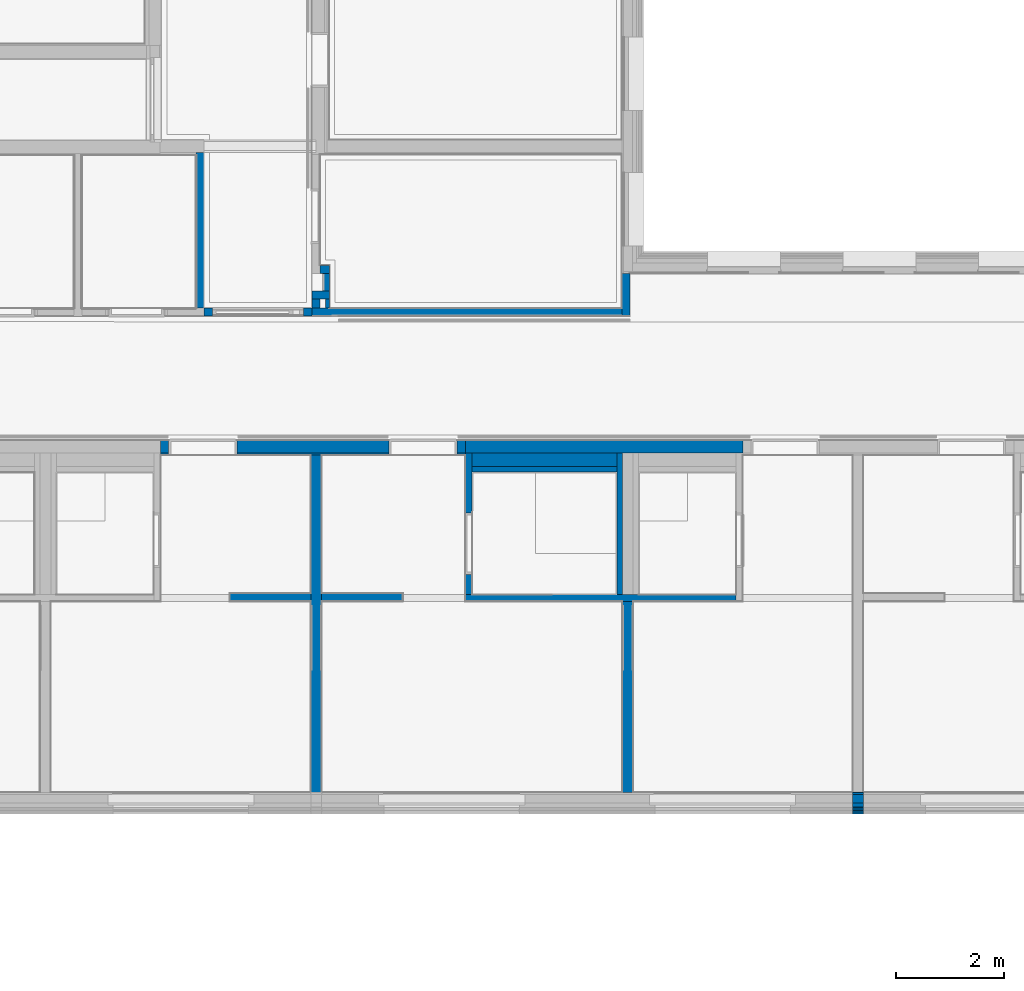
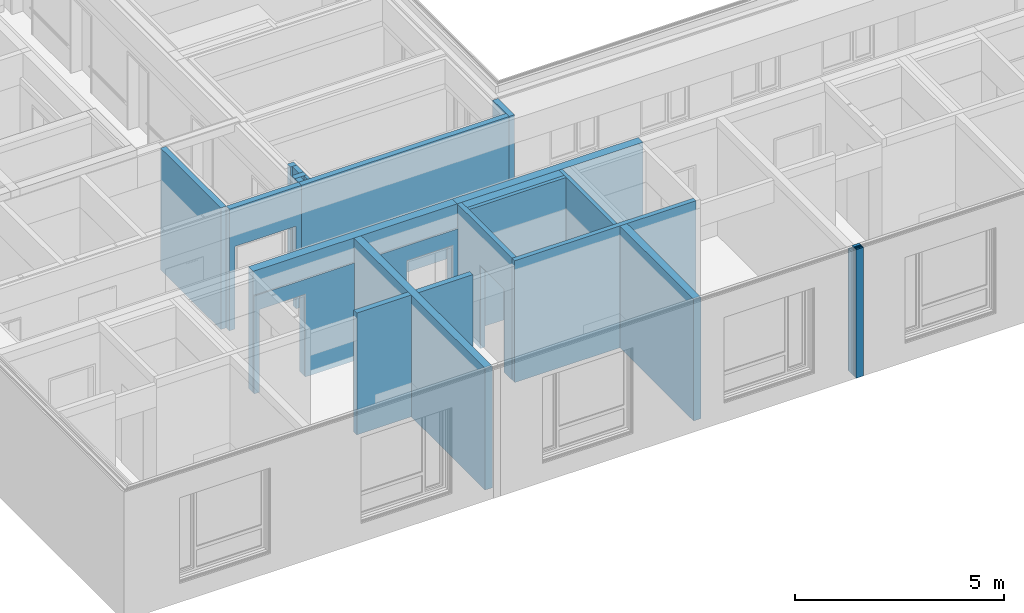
# One storey, part 11 of 222: 28 walls, 6 openings.
"""IFC4 building model written with IfcOpenShell, lengths in metres."""

from ifc_helpers import new_model, entity, si_unit, converted_unit, derived_unit, frame, frame_2d, origin, origin_with_axes, place, context, subcontext, project, spatial, polyline, rectangle, outline, extrude, material, element, save


model = new_model("IFC4")

# Units and contexts
model_context = context("Model", 3, precision=1e-05, world=origin())
body_context = subcontext(model_context, "Body", "Model", "MODEL_VIEW")
ifc_project = project(units=[si_unit("LENGTHUNIT", "METRE"), si_unit("AREAUNIT", "SQUARE_METRE"), si_unit("VOLUMEUNIT", "CUBIC_METRE"), si_unit("MASSUNIT", "GRAM", prefix="KILO"), converted_unit("PLANEANGLEUNIT", "DEGREE", entity("IfcPlaneAngleMeasure", 0.0174532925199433), si_unit("PLANEANGLEUNIT", "RADIAN"), dimensions=[0, 0, 0, 0, 0, 0, 0]), derived_unit("THERMALTRANSMITTANCEUNIT", [(si_unit("POWERUNIT", "WATT"), 1), (si_unit("THERMODYNAMICTEMPERATUREUNIT", "KELVIN"), -1), (si_unit("LENGTHUNIT", "METRE"), -2)]), derived_unit("VOLUMETRICFLOWRATEUNIT", [(si_unit("LENGTHUNIT", "METRE"), 3), (converted_unit("TIMEUNIT", "hour", entity("IfcTimeMeasure", 3600.0), si_unit("TIMEUNIT", "SECOND"), dimensions=[0, 0, 1, 0, 0, 0, 0]), -1), (si_unit("LENGTHUNIT", "METRE"), -1)])], contexts=[model_context])

# Site, building, storey
site_placement = place(None, origin())
site = spatial("IfcSite", under=ifc_project, at=site_placement, Name="Psychiatrie Neubau Wunstorf", CompositionType="ELEMENT")
building_placement = place(site_placement, origin())
building = spatial("IfcBuilding", under=site, at=building_placement, Name="Neubau H2 Stationsgebäude", CompositionType="ELEMENT")
storey_placement = place(building_placement, frame((0.0, 0.0, 3.6)))
storey = spatial("IfcBuildingStorey", under=building, at=storey_placement, Name="H2 Ebene +1", CompositionType="ELEMENT", Elevation=3.6)

# Walls
ifc_material_1 = material(Name="WA-LB")
wall_1_placement = place(storey_placement, frame((20.1, -2.16399999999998, 0.0), z_axis=(0.0, 0.0, 1.0), x_axis=(-1.0, 0.0, 0.0)))
element("IfcWall", 1, at=wall_1_placement, inside=storey, material=ifc_material_1, Name="2x Gipsfaserplatte", context=body_context, shape_type="SweptSolid", body=[
    extrude(rectangle(XDim=0.2, YDim=0.036, at=frame_2d((0.1, 0.018), x_axis=(1.0, 0.0))), origin_with_axes(), (0.0, 0.0, 1.0), 3.55),
])
ifc_material_2 = material(Name="WA-HD")
wall_2_placement = place(storey_placement, frame((20.1, -2.19999999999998, 0.0), z_axis=(0.0, 0.0, 1.0), x_axis=(-1.0, 0.0, 0.0)))
element("IfcWall", 2, at=wall_2_placement, inside=storey, material=ifc_material_2, Name="Holzständer + Zwischendämmung", context=body_context, shape_type="SweptSolid", body=[
    extrude(rectangle(XDim=0.2, YDim=0.16, at=frame_2d((0.1, 0.08), x_axis=(1.0, 0.0))), origin_with_axes(), (0.0, 0.0, 1.0), 3.55),
])
ifc_material_3 = material(Name="WA-DL")
wall_3_placement = place(storey_placement, frame((20.1, -2.35999999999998, 0.0), z_axis=(0.0, 0.0, 1.0), x_axis=(-1.0, 0.0, 0.0)))
element("IfcWall", 3, at=wall_3_placement, inside=storey, material=ifc_material_3, Name="Staffel + Zwischendämmung", context=body_context, shape_type="SweptSolid", body=[
    extrude(rectangle(XDim=0.2, YDim=0.08, at=frame_2d((0.1, 0.04), x_axis=(1.0, 0.0))), origin_with_axes(), (0.0, 0.0, 1.0), 3.75),
])
ifc_material_4 = material(Name="WA-LB")
wall_4_placement = place(storey_placement, frame((20.1, -2.43999999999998, 0.0), z_axis=(0.0, 0.0, 1.0), x_axis=(-1.0, 0.0, 0.0)))
element("IfcWall", 4, at=wall_4_placement, inside=storey, material=ifc_material_4, context=body_context, shape_type="SweptSolid", body=[
    extrude(rectangle(XDim=0.2, YDim=0.036, at=frame_2d((0.1, 0.018), x_axis=(1.0, 0.0))), origin_with_axes(), (0.0, 0.0, 1.0), 3.75),
])
ifc_material_5 = material(Name="WA-KL")
wall_5_placement = place(storey_placement, frame((20.1, -2.47599999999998, 0.0), z_axis=(0.0, 0.0, 1.0), x_axis=(-1.0, 0.0, 0.0)))
element("IfcWall", 5, at=wall_5_placement, inside=storey, material=ifc_material_5, Name="Konterlattung", context=body_context, shape_type="SweptSolid", body=[
    extrude(rectangle(XDim=0.2, YDim=0.024, at=frame_2d((0.1, 0.012), x_axis=(1.0, 0.0))), origin_with_axes(), (0.0, 0.0, 1.0), 3.75),
])
ifc_material_6 = material(Name="WA-TL")
wall_6_placement = place(storey_placement, frame((20.1, -2.49999999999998, 0.0), z_axis=(0.0, 0.0, 1.0), x_axis=(-1.0, 0.0, 0.0)))
element("IfcWall", 6, at=wall_6_placement, inside=storey, material=ifc_material_6, Name="Traglattung", context=body_context, shape_type="SweptSolid", body=[
    extrude(rectangle(XDim=0.2, YDim=0.024, at=frame_2d((0.1, 0.012), x_axis=(1.0, 0.0))), origin_with_axes(), (0.0, 0.0, 1.0), 3.75),
])
ifc_material_7 = material(Name="WA-HS")
wall_7_placement = place(storey_placement, frame((20.1, -2.52399999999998, 0.0), z_axis=(0.0, 0.0, 1.0), x_axis=(-1.0, 0.0, 0.0)))
element("IfcWall", 7, at=wall_7_placement, inside=storey, material=ifc_material_7, Name="Holzschindel", context=body_context, shape_type="SweptSolid", body=[
    extrude(rectangle(XDim=0.2, YDim=0.042, at=frame_2d((0.1, 0.021), x_axis=(1.0, 0.0))), origin_with_axes(), (0.0, 0.0, 1.0), 3.75),
])
ifc_material_8 = material(Name="WI-LB")
wall_8_placement = place(storey_placement, frame((7.775, 9.65000306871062, 0.0), z_axis=(0.0, 0.0, 1.0), x_axis=(0.0, -1.0, 0.0)))
element("IfcWall", 8, at=wall_8_placement, inside=storey, material=ifc_material_8, context=body_context, shape_type="SweptSolid", body=[
    extrude(rectangle(XDim=2.87500317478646, YDim=0.15, at=frame_2d((1.43750158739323, 0.075), x_axis=(1.0, 0.0))), origin_with_axes(), (0.0, 0.0, 1.0), 3.55),
])

# Wall, opening
ifc_material_9 = material(Name="WI-LB")
wall_9_placement = place(storey_placement, frame((12.875, 1.48374963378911, 0.0), z_axis=(0.0, 0.0, 1.0), x_axis=(0.0, 1.0, 0.0)))
wall_9 = element("IfcWall", 9, at=wall_9_placement, inside=storey, material=ifc_material_9, context=body_context, shape_type="SweptSolid", body=[
    extrude(rectangle(XDim=2.61499999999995, YDim=0.125, at=frame_2d((1.30749999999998, 0.0625), x_axis=(1.0, 0.0))), origin_with_axes(), (0.0, 0.0, 1.0), 3.55),
])
opening_1_placement = place(wall_9_placement, frame((0.374999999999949, 0.0, 0.0), z_axis=(0.0, 1.0, 0.0), x_axis=(0.0, 0.0, 1.0)))
element("IfcOpeningElement", 10, at=opening_1_placement, cuts=wall_9, Name="Türöffnung", ObjectType="Opening", context=body_context, shape_type="SweptSolid", body=[
    extrude(outline(polyline([(2.41, 1.135), (2.41, 0.0), (0.0, 0.0), (0.0, 1.135), (2.41, 1.135)])), origin_with_axes(), (0.0, 0.0, 1.0), 0.125),
])

# Walls
ifc_material_10 = material(Name="WI-LB")
wall_10_placement = place(storey_placement, frame((17.75, 1.48374963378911, 0.0), z_axis=(0.0, 0.0, 1.0), x_axis=(-1.0, 1.36424205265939e-16, 0.0)))
element("IfcWall", 11, at=wall_10_placement, inside=storey, material=ifc_material_10, context=body_context, shape_type="SweptSolid", body=[
    extrude(rectangle(XDim=5.0, YDim=0.125, at=frame_2d((2.5, 0.0625), x_axis=(1.0, 0.0))), origin_with_axes(), (0.0, 0.0, 1.0), 3.55),
])
ifc_material_11 = material(Name="WI-LB")
wall_11_placement = place(storey_placement, frame((15.65, 1.35874963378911, 0.0), z_axis=(0.0, 0.0, 1.0), x_axis=(0.0, -1.0, 0.0)))
element("IfcWall", 12, at=wall_11_placement, inside=storey, material=ifc_material_11, context=body_context, shape_type="SweptSolid", body=[
    extrude(rectangle(XDim=3.52274963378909, YDim=0.2, at=frame_2d((1.76137481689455, 0.1), x_axis=(1.0, 0.0))), origin_with_axes(), (0.0, 0.0, 1.0), 3.55),
])
ifc_material_12 = material(Name="WI-LB")
wall_12_placement = place(storey_placement, frame((9.9, 4.09874963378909, 0.0), z_axis=(0.0, 0.0, 1.0), x_axis=(-2.90445812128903e-16, -1.0, 0.0)))
element("IfcWall", 13, at=wall_12_placement, inside=storey, material=ifc_material_12, context=body_context, shape_type="SweptSolid", body=[
    extrude(rectangle(XDim=6.26274963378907, YDim=0.2, at=frame_2d((3.13137481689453, 0.1), x_axis=(1.0, 0.0))), origin_with_axes(), (0.0, 0.0, 1.0), 3.55),
])
ifc_material_13 = material(Name="WI-LB")
wall_13_placement = place(storey_placement, frame((15.639, 6.77499989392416, 0.0), z_axis=(0.0, 0.0, 1.0), x_axis=(-1.0, 3.17921770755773e-16, 0.0)))
element("IfcWall", 14, at=wall_13_placement, inside=storey, material=ifc_material_13, context=body_context, shape_type="SweptSolid", body=[
    extrude(rectangle(XDim=5.72149997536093, YDim=0.15, at=frame_2d((2.86074998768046, 0.075), x_axis=(1.0, 0.0))), origin_with_axes(), (0.0, 0.0, 1.0), 3.55),
])
ifc_material_14 = material(Name="WI-LB")
wall_14_placement = place(storey_placement, frame((9.9, 1.50874963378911, 0.0), z_axis=(0.0, 0.0, 1.0), x_axis=(-1.0, 0.0, 0.0)))
element("IfcWall", 15, at=wall_14_placement, inside=storey, material=ifc_material_14, context=body_context, shape_type="SweptSolid", body=[
    extrude(rectangle(XDim=1.50000000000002, YDim=0.15, at=frame_2d((0.750000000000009, 0.075), x_axis=(1.0, 0.0))), origin_with_axes(), (0.0, 0.0, 1.0), 3.55),
])
ifc_material_15 = material(Name="WI-LB")
wall_15_placement = place(storey_placement, frame((11.6, 1.50874963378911, 0.0), z_axis=(0.0, 0.0, 1.0), x_axis=(-1.0, -1.51582450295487e-16, 0.0)))
element("IfcWall", 16, at=wall_15_placement, inside=storey, material=ifc_material_15, context=body_context, shape_type="SweptSolid", body=[
    extrude(rectangle(XDim=1.50000000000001, YDim=0.15, at=frame_2d((0.750000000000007, 0.075), x_axis=(1.0, 0.0))), origin_with_axes(), (0.0, 0.0, 1.0), 3.55),
])
ifc_material_16 = material(Name="WI-LB")
wall_16_placement = place(storey_placement, frame((10.2425000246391, 7.56499989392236, 0.0), z_axis=(0.0, 0.0, 1.0), x_axis=(-1.0, 0.0, 0.0)))
element("IfcWall", 17, at=wall_16_placement, inside=storey, material=ifc_material_16, context=body_context, shape_type="SweptSolid", body=[
    extrude(rectangle(XDim=0.175, YDim=0.15, at=frame_2d((0.0875, 0.075), x_axis=(1.0, 0.0))), origin_with_axes(), (0.0, 0.0, 1.0), 3.55),
])
ifc_material_17 = material(Name="WI-LB")
wall_17_placement = place(storey_placement, frame((9.91750002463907, 6.93999989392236, 0.0)))
element("IfcWall", 18, at=wall_17_placement, inside=storey, material=ifc_material_17, context=body_context, shape_type="SweptSolid", body=[
    extrude(rectangle(XDim=0.325, YDim=0.15, at=frame_2d((0.1625, 0.075), x_axis=(1.0, 0.0))), origin_with_axes(), (0.0, 0.0, 1.0), 3.55),
])
ifc_material_18 = material(Name="WI-LB")
wall_18_placement = place(storey_placement, frame((10.0675000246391, 6.77499989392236, 0.0), z_axis=(0.0, 0.0, 1.0), x_axis=(0.0, 1.0, 0.0)))
element("IfcWall", 19, at=wall_18_placement, inside=storey, material=ifc_material_18, context=body_context, shape_type="SweptSolid", body=[
    extrude(rectangle(XDim=0.165, YDim=0.15, at=frame_2d((0.0825, 0.075), x_axis=(1.0, 0.0))), origin_with_axes(), (0.0, 0.0, 1.0), 3.55),
])
ifc_material_19 = material(Name="WI-IW")
wall_19_placement = place(storey_placement, frame((10.2425000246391, 6.77499990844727, 0.0), z_axis=(0.0, 0.0, 1.0), x_axis=(0.0, 1.0, 0.0)))
element("IfcWall", 20, at=wall_19_placement, inside=storey, material=ifc_material_19, context=body_context, shape_type="SweptSolid", body=[
    extrude(rectangle(XDim=0.164999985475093, YDim=0.075, at=frame_2d((0.0824999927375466, 0.0375), x_axis=(1.0, 0.0))), origin_with_axes(), (0.0, 0.0, 1.0), 3.55),
])

# Wall, openings
ifc_material_20 = material(Name="WI-HW 60")
wall_20_placement = place(storey_placement, frame((12.75, 4.33074963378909, 0.0), z_axis=(0.0, 0.0, 1.0), x_axis=(-1.0, 1.13181562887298e-15, 0.0)))
wall_20 = element("IfcWall", 21, at=wall_20_placement, inside=storey, material=ifc_material_20, context=body_context, shape_type="SweptSolid", body=[
    extrude(rectangle(XDim=5.625, YDim=0.232, at=frame_2d((2.8125, 0.116), x_axis=(1.0, 0.0))), origin_with_axes(), (0.0, 0.0, 1.0), 3.55),
])
opening_2_placement = place(wall_20_placement, frame((0.15, 0.0, 0.0), z_axis=(-1.1025663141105e-15, 1.0, 0.0), x_axis=(0.0, 0.0, 1.0)))
element("IfcOpeningElement", 22, at=opening_2_placement, cuts=wall_20, Name="Türöffnung", ObjectType="Opening", context=body_context, shape_type="SweptSolid", body=[
    extrude(outline(polyline([(2.41, 1.26), (2.41, 0.0), (0.0, 0.0), (0.0, 1.26), (2.41, 1.26)])), origin_with_axes(), (0.0, 0.0, 1.0), 0.232),
])
opening_3_placement = place(wall_20_placement, frame((4.215, 0.0, 0.0), z_axis=(0.0, 1.0, 0.0), x_axis=(0.0, 0.0, 1.0)))
element("IfcOpeningElement", 23, at=opening_3_placement, cuts=wall_20, Name="Türöffnung", ObjectType="Opening", context=body_context, shape_type="SweptSolid", body=[
    extrude(outline(polyline([(2.41, 1.26), (2.41, 0.0), (0.0, 0.0), (0.0, 1.26), (2.41, 1.26)])), origin_with_axes(), (0.0, 0.0, 1.0), 0.232),
])

ifc_material_21 = material(Name="WI-LB")
wall_21_placement = place(storey_placement, frame((12.75, 4.09874963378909, 0.0), z_axis=(0.0, 0.0, 1.0), x_axis=(-1.0, 1.13181562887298e-15, 0.0)))
wall_21 = element("IfcWall", 24, at=wall_21_placement, inside=storey, material=ifc_material_21, context=body_context, shape_type="SweptSolid", body=[
    extrude(rectangle(XDim=5.625, YDim=0.0399999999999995, at=frame_2d((2.8125, 0.0199999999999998), x_axis=(1.0, 0.0))), origin_with_axes(), (0.0, 0.0, 1.0), 2.85),
])
opening_4_placement = place(wall_21_placement, frame((0.15, 0.0, 0.0), z_axis=(-1.42108547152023e-15, 1.0, 0.0), x_axis=(0.0, 0.0, 1.0)))
element("IfcOpeningElement", 25, at=opening_4_placement, cuts=wall_21, Name="Türöffnung", ObjectType="Opening", context=body_context, shape_type="SweptSolid", body=[
    extrude(outline(polyline([(2.41, 1.26), (2.41, 0.0), (0.0, 0.0), (0.0, 1.26), (2.41, 1.26)])), origin_with_axes(), (0.0, 0.0, 1.0), 0.0399999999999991),
])
opening_5_placement = place(wall_21_placement, frame((4.215, 0.0, 0.0), z_axis=(0.0, 1.0, 0.0), x_axis=(0.0, 0.0, 1.0)))
element("IfcOpeningElement", 26, at=opening_5_placement, cuts=wall_21, Name="Türöffnung", ObjectType="Opening", context=body_context, shape_type="SweptSolid", body=[
    extrude(outline(polyline([(2.41, 1.26), (2.41, 0.0), (0.0, 0.0), (0.0, 1.26), (2.41, 1.26)])), origin_with_axes(), (0.0, 0.0, 1.0), 0.0399999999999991),
])

# Walls
ifc_material_22 = material(Name="WI-HW 60")
wall_22_placement = place(storey_placement, frame((17.875, 4.33074963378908, 0.0), z_axis=(0.0, 0.0, 1.0), x_axis=(-1.0, -3.19432285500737e-15, 0.0)))
element("IfcWall", 27, at=wall_22_placement, inside=storey, material=ifc_material_22, context=body_context, shape_type="SweptSolid", body=[
    extrude(rectangle(XDim=5.12499999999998, YDim=0.232, at=frame_2d((2.56249999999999, 0.116), x_axis=(1.0, 0.0))), origin_with_axes(), (0.0, 0.0, 1.0), 3.55),
])
ifc_material_23 = material(Name="WI-IW")
wall_23_placement = place(storey_placement, frame((12.875, 3.74874963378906, 0.0)))
element("IfcWall", 28, at=wall_23_placement, inside=storey, material=ifc_material_23, context=body_context, shape_type="SweptSolid", body=[
    extrude(rectangle(XDim=2.675, YDim=0.1, at=frame_2d((1.3375, 0.05), x_axis=(1.0, 0.0))), origin_with_axes(), (0.0, 0.0, 1.0), 3.55),
])
ifc_material_24 = material(Name="Installationsraum")
wall_24_placement = place(storey_placement, frame((12.875, 3.84874963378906, 0.0)))
element("IfcWall", 29, at=wall_24_placement, inside=storey, material=ifc_material_24, context=body_context, shape_type="SweptSolid", body=[
    extrude(rectangle(XDim=2.675, YDim=0.25, at=frame_2d((1.3375, 0.125), x_axis=(1.0, 0.0))), origin_with_axes(), (0.0, 0.0, 1.0), 3.55),
])
ifc_material_25 = material(Name="WI-IW")
wall_25_placement = place(storey_placement, frame((15.55, 4.09874963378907, 0.0), z_axis=(0.0, 0.0, 1.0), x_axis=(0.0, -1.0, 0.0)))
element("IfcWall", 30, at=wall_25_placement, inside=storey, material=ifc_material_25, context=body_context, shape_type="SweptSolid", body=[
    extrude(rectangle(XDim=2.61499999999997, YDim=0.1, at=frame_2d((1.30749999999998, 0.05), x_axis=(1.0, 0.0))), origin_with_axes(), (0.0, 0.0, 1.0), 3.55),
])
ifc_material_26 = material(Name="WI-LB")
wall_26_placement = place(storey_placement, frame((10.2425000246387, 7.08999989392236, 0.0), z_axis=(0.0, 0.0, 1.0), x_axis=(0.0, 1.0, 0.0)))
element("IfcWall", 31, at=wall_26_placement, inside=storey, material=ifc_material_26, context=body_context, shape_type="SweptSolid", body=[
    extrude(rectangle(XDim=0.325, YDim=0.125, at=frame_2d((0.1625, 0.0625), x_axis=(1.0, 0.0))), origin_with_axes(), (0.0, 0.0, 1.0), 3.55),
])
ifc_material_27 = material(Name="WI-LB")
wall_27_placement = place(storey_placement, frame((15.639, 7.414, 0.0), z_axis=(0.0, 0.0, 1.0), x_axis=(0.0, -1.0, 0.0)))
element("IfcWall", 32, at=wall_27_placement, inside=storey, material=ifc_material_27, context=body_context, shape_type="SweptSolid", body=[
    extrude(rectangle(XDim=0.789000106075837, YDim=0.15, at=frame_2d((0.394500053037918, 0.075), x_axis=(1.0, 0.0))), origin_with_axes(), (0.0, 0.0, 1.0), 3.55),
])

# Wall, opening
ifc_material_28 = material(Name="WI-LB")
wall_28_placement = place(storey_placement, frame((9.91750002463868, 6.77999989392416, 0.0), z_axis=(0.0, 0.0, 1.0), x_axis=(-1.0, 0.0, 0.0)))
wall_28 = element("IfcWall", 33, at=wall_28_placement, inside=storey, material=ifc_material_28, context=body_context, shape_type="SweptSolid", body=[
    extrude(rectangle(XDim=1.9925, YDim=0.155, at=frame_2d((0.99625, 0.0775), x_axis=(1.0, 0.0))), origin_with_axes(), (0.0, 0.0, 1.0), 3.55),
])
opening_6_placement = place(wall_28_placement, frame((0.155000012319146, 0.0, 0.0), z_axis=(0.0, 1.0, 0.0), x_axis=(0.0, 0.0, 1.0)))
element("IfcOpeningElement", 34, at=opening_6_placement, cuts=wall_28, Name="Türöffnung", ObjectType="Opening", context=body_context, shape_type="SweptSolid", body=[
    extrude(outline(polyline([(2.41, 1.6825), (2.41, 0.0), (0.0, 0.0), (0.0, 1.6825), (2.41, 1.6825)])), origin_with_axes(), (0.0, 0.0, 1.0), 0.155),
])

save(model, "model.ifc")
